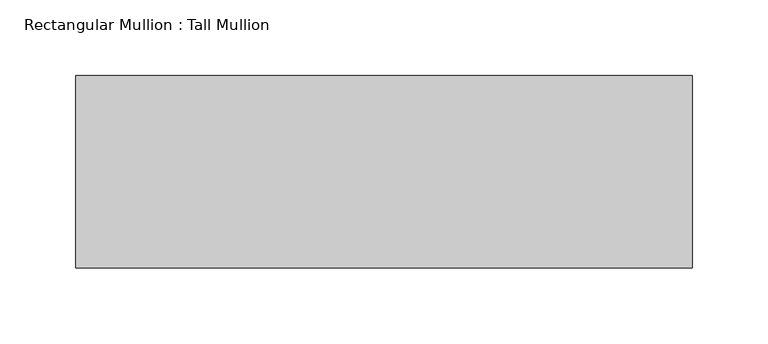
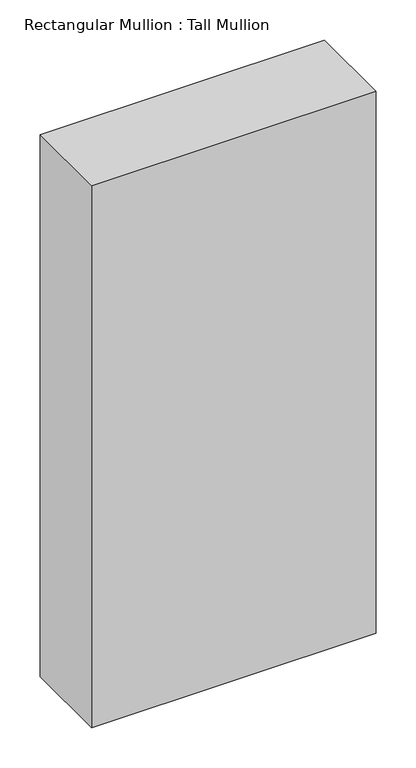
"""IFC4 building model written with IfcOpenShell, lengths in millimetres: member geometry, Rectangular Mullion : Tall Mullion."""

from ifc_helpers import new_model, si_unit, frame, origin, place, context, project, spatial, polyline, outline, extrude, source, transform, mapped, element, save


def rectangular_mullion_tall_mullion_643de06f(model_context):
    return source(origin(), model_context, "Body", "SweptSolid", [
        extrude(outline(polyline([(0.0, 63.5), (0.0, -63.5), (-406.4, -63.5), (-406.4, 63.5), (0.0, 63.5)])), frame((0.0, 0.0, -819.15), z_axis=(0.0, 0.0, 1.0), x_axis=(1.0, 0.0, 0.0)), (0.0, 0.0, 1.0), 819.15),
    ])


if __name__ == "__main__":
    model = new_model("IFC4")
    model_context = context("Model", 3, world=origin())
    ifc_project = project(units=[si_unit("LENGTHUNIT", "METRE", prefix="MILLI")], contexts=[model_context])
    site = spatial("IfcSite", under=ifc_project)
    building = spatial("IfcBuilding", under=site)
    placement = place(None, origin())
    rectangular_mullion_tall_mullion_shape = rectangular_mullion_tall_mullion_643de06f(model_context)
    element("IfcMember", 1, ObjectType="Rectangular Mullion : Tall Mullion", at=placement, inside=building, context=model_context, shape_type="MappedRepresentation", body=[
        mapped(rectangular_mullion_tall_mullion_shape, transform((0.0, 0.0, 0.0), x_axis=(1.0, 0.0, 0.0), y_axis=(0.0, 1.0, 0.0), z_axis=(0.0, 0.0, 1.0))),
    ])
    save(model, "model.ifc")
